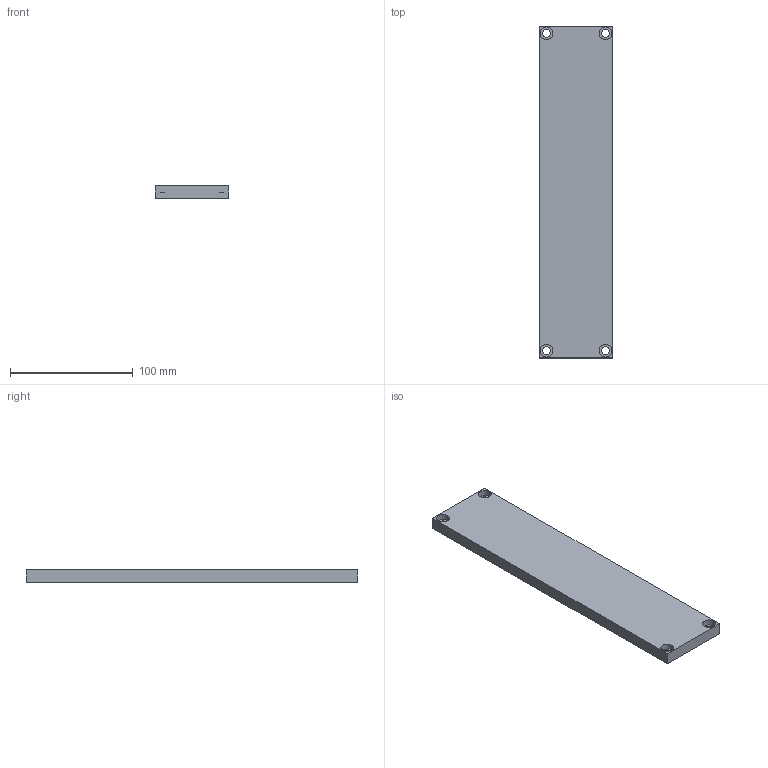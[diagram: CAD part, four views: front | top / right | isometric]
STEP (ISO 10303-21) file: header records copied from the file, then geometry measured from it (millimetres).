
FILE_DESCRIPTION((''),'2;1');
FILE_NAME('V:\CAD\Inventor-Stp\VE 20\stp\06-04-020.stp','2003-10-20T14:32:10',('VS'),(''),'Autodesk Inventor (R) 6.0','Autodesk Inventor (R) 6.0','');
FILE_SCHEMA(('CONFIG_CONTROL_DESIGN'));
Length unit declared in the file: millimetre
Products named in the file (1): Bauteil2
Bounding box: 60 x 270 x 10 mm (x, y, z)
Volume: 159477 mm3; surface area: 39835.5 mm2
Topology: 1 solids, 1 shells, 32 faces, 72 edges, 48 vertices
Faces by surface type: bspline 26, plane 6
Entity records: 1287 total; most frequent: CARTESIAN_POINT 511, ORIENTED_EDGE 144, DIRECTION 126, EDGE_CURVE 72, VERTEX_POINT 48, AXIS2_PLACEMENT_3D 47, EDGE_LOOP 46, CIRCLE 40
